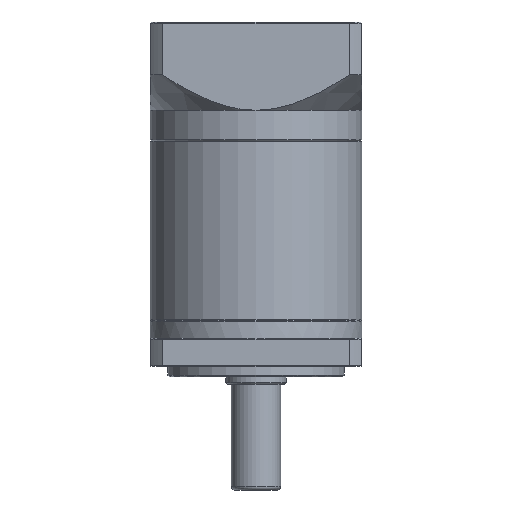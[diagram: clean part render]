
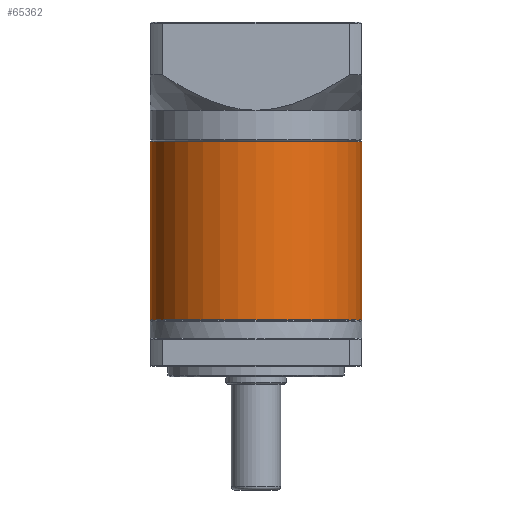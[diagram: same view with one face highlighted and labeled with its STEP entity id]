
A CAD part, front view. The second image highlights one B-rep face of the part: STEP entity #65362.
In plain terms, the highlighted cylindrical face has radius 30 mm (diameter 60 mm), a partial arc.
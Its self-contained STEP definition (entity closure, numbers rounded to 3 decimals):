
#1783 = DIRECTION ( 'NONE',  ( 0., 0., 1. ) ) ;
#1793 = CIRCLE ( 'NONE', #62270, 30. ) ;
#6011 = VERTEX_POINT ( 'NONE', #39195 ) ;
#6782 = CARTESIAN_POINT ( 'NONE',  ( -87.838, 40.689, -4.321 ) ) ;
#8179 = AXIS2_PLACEMENT_3D ( 'NONE', #64064, #71516, #56953 ) ;
#13070 = CARTESIAN_POINT ( 'NONE',  ( -87.838, 40.689, -54.871 ) ) ;
#13243 = CARTESIAN_POINT ( 'NONE',  ( -57.838, 40.689, -4.571 ) ) ;
#14197 = DIRECTION ( 'NONE',  ( 0., 0., -1. ) ) ;
#16167 = VERTEX_POINT ( 'NONE', #13070 ) ;
#17730 = FACE_OUTER_BOUND ( 'NONE', #87775, .T. ) ;
#20703 = DIRECTION ( 'NONE',  ( 1., 0., 0. ) ) ;
#22200 = EDGE_CURVE ( 'NONE', #78165, #88089, #39472, .T. ) ;
#24012 = LINE ( 'NONE', #6782, #60998 ) ;
#28089 = CYLINDRICAL_SURFACE ( 'NONE', #8179, 30. ) ;
#29337 = ORIENTED_EDGE ( 'NONE', *, *, #65432, .T. ) ;
#32966 = AXIS2_PLACEMENT_3D ( 'NONE', #13243, #65032, #20703 ) ;
#38516 = CIRCLE ( 'NONE', #32966, 30. ) ;
#39195 = CARTESIAN_POINT ( 'NONE',  ( -87.838, 40.689, -4.571 ) ) ;
#39472 = LINE ( 'NONE', #80212, #76513 ) ;
#43353 = DIRECTION ( 'NONE',  ( 0., 0., -1. ) ) ;
#45128 = CARTESIAN_POINT ( 'NONE',  ( -27.838, 40.689, -54.871 ) ) ;
#46121 = CARTESIAN_POINT ( 'NONE',  ( -57.838, 40.689, -54.871 ) ) ;
#49261 = ORIENTED_EDGE ( 'NONE', *, *, #87556, .T. ) ;
#53535 = DIRECTION ( 'NONE',  ( 1., 0., 0. ) ) ;
#56953 = DIRECTION ( 'NONE',  ( -1., 0., 0. ) ) ;
#60998 = VECTOR ( 'NONE', #14197, 1000. ) ;
#61816 = ORIENTED_EDGE ( 'NONE', *, *, #94600, .T. ) ;
#62270 = AXIS2_PLACEMENT_3D ( 'NONE', #46121, #1783, #53535 ) ;
#64064 = CARTESIAN_POINT ( 'NONE',  ( -57.838, 40.689, -4.321 ) ) ;
#65032 = DIRECTION ( 'NONE',  ( 0., 0., -1. ) ) ;
#65362 = ADVANCED_FACE ( 'NONE', ( #17730 ), #28089, .T. ) ;
#65432 = EDGE_CURVE ( 'NONE', #78165, #6011, #38516, .T. ) ;
#70197 = ORIENTED_EDGE ( 'NONE', *, *, #22200, .F. ) ;
#71516 = DIRECTION ( 'NONE',  ( 0., 0., -1. ) ) ;
#76513 = VECTOR ( 'NONE', #43353, 1000. ) ;
#78165 = VERTEX_POINT ( 'NONE', #95712 ) ;
#80212 = CARTESIAN_POINT ( 'NONE',  ( -27.838, 40.689, -4.321 ) ) ;
#87556 = EDGE_CURVE ( 'NONE', #6011, #16167, #24012, .T. ) ;
#87775 = EDGE_LOOP ( 'NONE', ( #70197, #29337, #49261, #61816 ) ) ;
#88089 = VERTEX_POINT ( 'NONE', #45128 ) ;
#94600 = EDGE_CURVE ( 'NONE', #16167, #88089, #1793, .T. ) ;
#95712 = CARTESIAN_POINT ( 'NONE',  ( -27.838, 40.689, -4.571 ) ) ;
